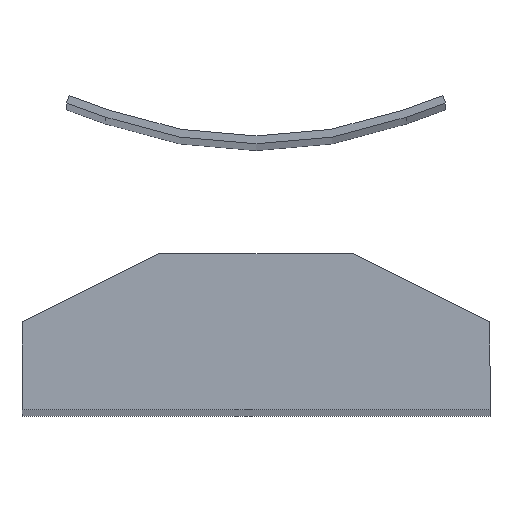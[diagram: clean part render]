
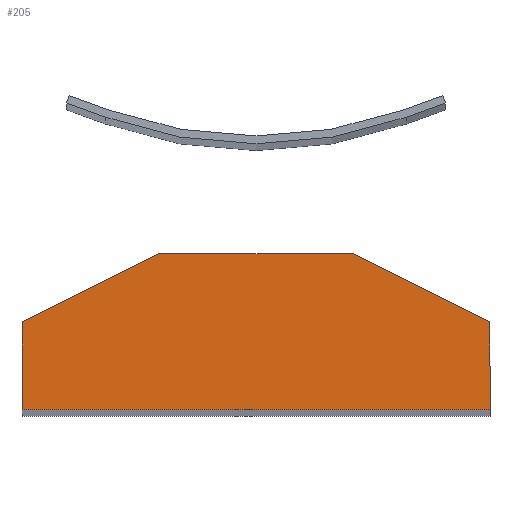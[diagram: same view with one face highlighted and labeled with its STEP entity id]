
A CAD part, top view. The second image highlights one B-rep face of the part: STEP entity #205.
In plain terms, the highlighted planar face has unit normal (0, 0, 1).
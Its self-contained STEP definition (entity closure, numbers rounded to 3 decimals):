
#14 = CARTESIAN_POINT ( 'NONE',  ( -240., 90., 2000. ) ) ;
#16 = CARTESIAN_POINT ( 'NONE',  ( -240., 0., 2000. ) ) ;
#44 = VECTOR ( 'NONE', #164, 1000. ) ;
#59 = DIRECTION ( 'NONE',  ( 0., 1., 0. ) ) ;
#68 = LINE ( 'NONE', #75, #260 ) ;
#75 = CARTESIAN_POINT ( 'NONE',  ( -240., 0., 2000. ) ) ;
#83 = CARTESIAN_POINT ( 'NONE',  ( 240., 90., 2000. ) ) ;
#97 = CARTESIAN_POINT ( 'NONE',  ( -100., 160., 2000. ) ) ;
#105 = CARTESIAN_POINT ( 'NONE',  ( 100., 160., 2000. ) ) ;
#107 = CARTESIAN_POINT ( 'NONE',  ( -100., 160., 2000. ) ) ;
#109 = DIRECTION ( 'NONE',  ( -1., 0., 0. ) ) ;
#118 = CARTESIAN_POINT ( 'NONE',  ( 100., 160., 2000. ) ) ;
#145 = CARTESIAN_POINT ( 'NONE',  ( 240., 0., 2000. ) ) ;
#151 = CARTESIAN_POINT ( 'NONE',  ( -240., 0., 2000. ) ) ;
#161 = DIRECTION ( 'NONE',  ( 0., -1., 0. ) ) ;
#164 = DIRECTION ( 'NONE',  ( -0.894, -0.447, 0. ) ) ;
#200 = VECTOR ( 'NONE', #392, 1000. ) ;
#202 = LINE ( 'NONE', #105, #200 ) ;
#204 = VECTOR ( 'NONE', #109, 1000. ) ;
#205 = ADVANCED_FACE ( 'NONE', ( #321 ), #327, .F. ) ;
#213 = LINE ( 'NONE', #97, #204 ) ;
#222 = VECTOR ( 'NONE', #59, 1000. ) ;
#246 = CARTESIAN_POINT ( 'NONE',  ( -240., 90., 2000. ) ) ;
#254 = LINE ( 'NONE', #246, #44 ) ;
#257 = LINE ( 'NONE', #386, #222 ) ;
#260 = VECTOR ( 'NONE', #587, 1000. ) ;
#284 = VECTOR ( 'NONE', #161, 1000. ) ;
#293 = LINE ( 'NONE', #151, #284 ) ;
#321 = FACE_OUTER_BOUND ( 'NONE', #356, .T. ) ;
#327 = PLANE ( 'NONE',  #469 ) ;
#332 = CARTESIAN_POINT ( 'NONE',  ( 0., 0., 2000. ) ) ;
#338 = DIRECTION ( 'NONE',  ( -1., 0., 0. ) ) ;
#342 = DIRECTION ( 'NONE',  ( 0., 0., -1. ) ) ;
#356 = EDGE_LOOP ( 'NONE', ( #555, #552, #548, #534, #578, #575 ) ) ;
#359 = VERTEX_POINT ( 'NONE', #145 ) ;
#386 = CARTESIAN_POINT ( 'NONE',  ( 240., 90., 2000. ) ) ;
#392 = DIRECTION ( 'NONE',  ( -0.894, 0.447, 0. ) ) ;
#412 = EDGE_CURVE ( 'NONE', #468, #457, #293, .T. ) ;
#414 = VERTEX_POINT ( 'NONE', #107 ) ;
#457 = VERTEX_POINT ( 'NONE', #16 ) ;
#468 = VERTEX_POINT ( 'NONE', #14 ) ;
#469 = AXIS2_PLACEMENT_3D ( 'NONE', #332, #342, #338 ) ;
#534 = ORIENTED_EDGE ( 'NONE', *, *, #581, .T. ) ;
#538 = VERTEX_POINT ( 'NONE', #118 ) ;
#548 = ORIENTED_EDGE ( 'NONE', *, *, #564, .T. ) ;
#551 = EDGE_CURVE ( 'NONE', #457, #359, #68, .T. ) ;
#552 = ORIENTED_EDGE ( 'NONE', *, *, #551, .T. ) ;
#554 = EDGE_CURVE ( 'NONE', #414, #468, #254, .T. ) ;
#555 = ORIENTED_EDGE ( 'NONE', *, *, #412, .T. ) ;
#564 = EDGE_CURVE ( 'NONE', #359, #576, #257, .T. ) ;
#572 = EDGE_CURVE ( 'NONE', #538, #414, #213, .T. ) ;
#575 = ORIENTED_EDGE ( 'NONE', *, *, #554, .T. ) ;
#576 = VERTEX_POINT ( 'NONE', #83 ) ;
#578 = ORIENTED_EDGE ( 'NONE', *, *, #572, .T. ) ;
#581 = EDGE_CURVE ( 'NONE', #576, #538, #202, .T. ) ;
#587 = DIRECTION ( 'NONE',  ( 1., 0., 0. ) ) ;
